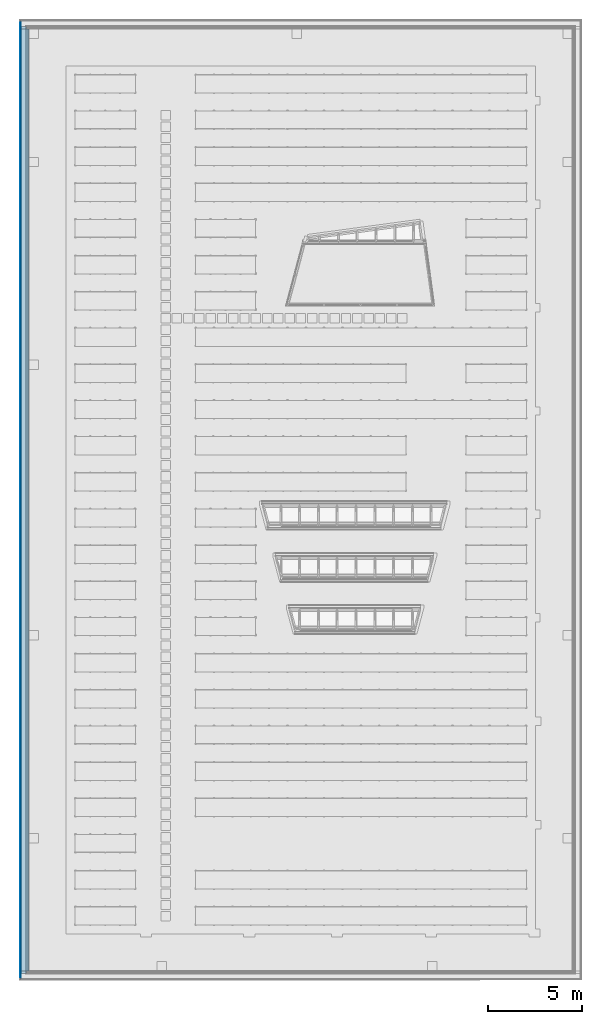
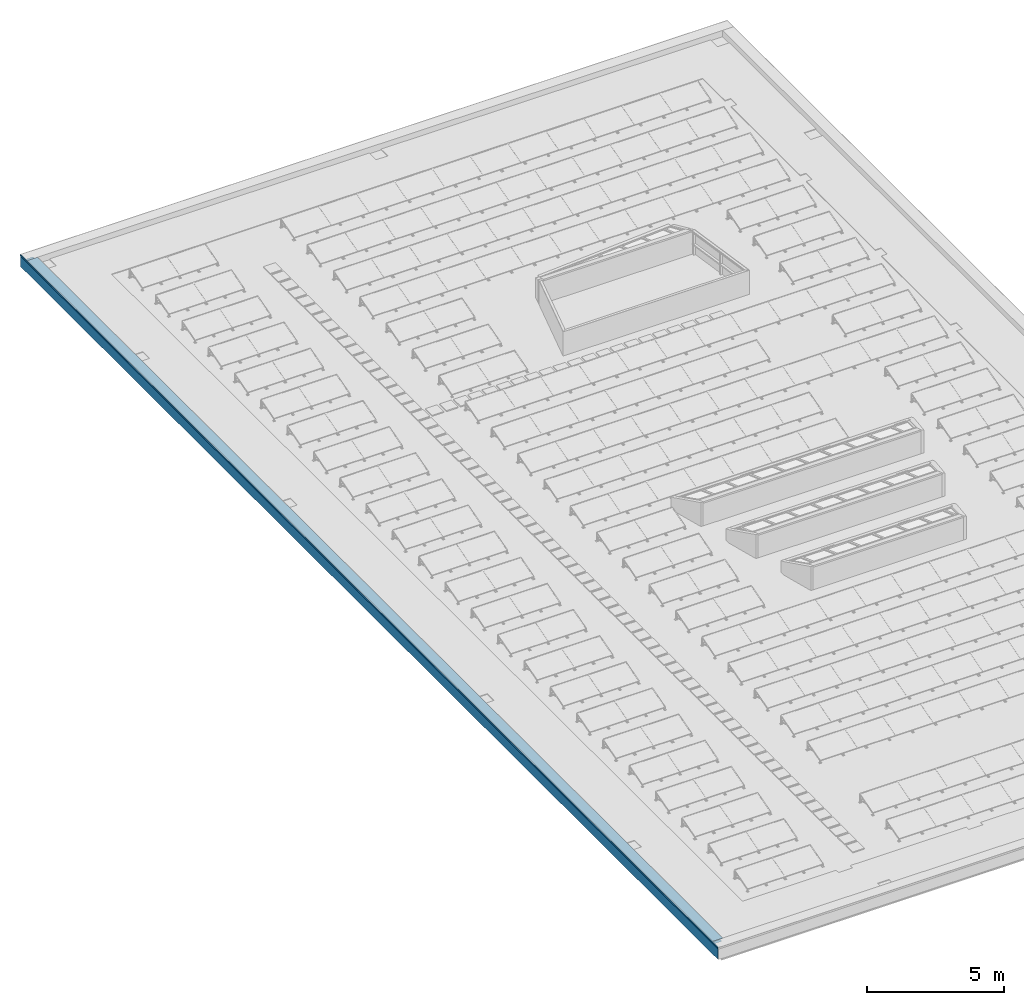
# One storey, part 9 of 20: 3 building element parts, 1 element without a shape of its own.
"""IFC2X3 building model written with IfcOpenShell, lengths in millimetres."""

from ifc_helpers import new_model, entity, si_unit, converted_unit, derived_unit, money_unit, direction, frame, origin_with_axes, place, context, subcontext, project, spatial, faceted_brep, material, type_object, element, aggregate, save


model = new_model("IFC2X3")

# Units and contexts
model_context = context("Model", 3, precision=0.01, world=origin_with_axes(), true_north=direction((0.0, 1.0)))
plan_context = context("Plan", 3, precision=0.01, world=origin_with_axes(), true_north=direction((0.0, 1.0)))
body_context = subcontext(model_context, "Body", "Model", "MODEL_VIEW")
ifc_project = project(units=[si_unit("LENGTHUNIT", "METRE", prefix="MILLI"), si_unit("AREAUNIT", "SQUARE_METRE"), si_unit("VOLUMEUNIT", "CUBIC_METRE"), converted_unit("PLANEANGLEUNIT", "DEGREE", entity("IfcPlaneAngleMeasure", 0.0174532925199), si_unit("PLANEANGLEUNIT", "RADIAN"), dimensions=[0, 0, 0, 0, 0, 0, 0]), si_unit("SOLIDANGLEUNIT", "STERADIAN"), money_unit("EUR"), converted_unit("TIMEUNIT", "Year", entity("IfcTimeMeasure", 31556926.0), si_unit("TIMEUNIT", "SECOND"), dimensions=[0, 0, 1, 0, 0, 0, 0]), si_unit("MASSUNIT", "GRAM", prefix="KILO"), si_unit("THERMODYNAMICTEMPERATUREUNIT", "DEGREE_CELSIUS"), si_unit("LUMINOUSINTENSITYUNIT", "LUMEN"), si_unit("ENERGYUNIT", "JOULE", prefix="MEGA"), derived_unit("THERMALCONDUCTANCEUNIT", [(si_unit("POWERUNIT", "WATT"), 1), (si_unit("LENGTHUNIT", "METRE"), -1), (si_unit("THERMODYNAMICTEMPERATUREUNIT", "KELVIN"), -1)]), derived_unit("SPECIFICHEATCAPACITYUNIT", [(si_unit("ENERGYUNIT", "JOULE"), 1), (si_unit("MASSUNIT", "GRAM", prefix="KILO"), -1), (si_unit("THERMODYNAMICTEMPERATUREUNIT", "KELVIN"), -1)]), derived_unit("MASSDENSITYUNIT", [(si_unit("MASSUNIT", "GRAM", prefix="KILO"), 1), (si_unit("VOLUMEUNIT", "CUBIC_METRE"), -1)])], contexts=[model_context, plan_context])

# Site, building, storey
site_placement = place(None, origin_with_axes())
site = spatial("IfcSite", under=ifc_project, at=site_placement, Name="Site", CompositionType="ELEMENT")
building_placement = place(site_placement, origin_with_axes())
building = spatial("IfcBuilding", under=site, at=building_placement, Name="Naam gebouw", CompositionType="ELEMENT")
storey_placement = place(building_placement, frame((0.0, 0.0, 7920.0), z_axis=(0.0, 0.0, 1.0), x_axis=(1.0, 0.0, 0.0)))
storey = spatial("IfcBuildingStorey", under=building, at=storey_placement, Name="2e verdieping", CompositionType="ELEMENT", Elevation=7920.0)

# Wall, building element parts
wall_type = type_object("IfcWallType", Name="_TenW_27_dakrand_01 473 x 542", PredefinedType="NOTDEFINED")
wall_placement = place(storey_placement, frame((0.0, 50400.0, 0.0), z_axis=(0.0, 0.0, 1.0), x_axis=(0.0, -1.0, 0.0)))
wall = element("IfcWall", 1, at=wall_placement, inside=storey, type_object=wall_type, Name="21_Wand_Wand-x")
ifc_material_1 = material(Name="Hout - Multiplex")
building_element_part_1_placement = place(wall_placement, origin_with_axes())
building_element_part_1 = element("IfcBuildingElementPart", 2, at=building_element_part_1_placement, material=ifc_material_1, Name="Hout - Multiplex", context=body_context, shape_type="Brep", body=[
    faceted_brep([(50262.0239198, -323.318138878, 526.546857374), (50262.0239198, -277.984633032, 526.546857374), (137.976080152, -277.984633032, 526.546860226), (137.976080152, -323.318138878, 526.546857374), (50262.0239198, -323.318138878, 509.508762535), (50262.0239397, 17.908290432, 509.508759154), (50262.0239198, 119.828954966, 509.366891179), (50262.0239198, 119.976079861, 509.366889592), (50262.0239198, 137.976080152, 509.366891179), (50262.0239198, 137.976080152, 527.060682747), (50262.0239198, -277.984633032, 527.060682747), (137.976080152, -277.984633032, 527.060682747), (137.976080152, -323.318138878, 509.508762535), (137.976080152, 137.976080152, 527.060682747), (137.976080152, 137.976080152, 509.366891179), (137.976080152, 119.976079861, 509.366889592), (137.976080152, 119.828954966, 509.366891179), (137.976080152, 17.9109447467, 509.508760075), (50400.0911616, -323.318138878, 509.060688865), (50400.0916934, -323.318138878, 509.483711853), (50382.0917137, -323.318138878, 509.508760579), (17.9082862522, -323.318138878, 509.508760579), (-0.0916934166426, -323.318138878, 509.483711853), (-0.0911615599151, -323.318138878, 509.060688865), (50382.0917137, 17.9082862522, 509.508761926), (50280.0239187, 119.831234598, 509.366888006), (50280.0239187, 119.976079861, 509.366888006), (119.976081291, 119.831234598, 509.366888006), (119.976081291, 119.976079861, 509.366888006), (17.9082862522, 17.9082862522, 509.508761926), (50400.0911616, -0.0911625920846, 509.060678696), (50400.0916934, -0.0916913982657, 509.483713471), (-0.0916934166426, -0.0916913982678, 509.483713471), (-0.0911615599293, -0.0911625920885, 509.060678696), (50280.0239187, 119.831234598, 509.06068655), (119.976081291, 119.831234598, 509.06068655), (50280.0239187, 119.976079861, 509.06068655), (119.976081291, 119.976079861, 509.06068655)], [[[0, 1, 2, 3]], [[0, 4, 5, 6, 7, 8, 9, 10, 1]], [[2, 1, 10, 11]], [[12, 3, 2, 11, 13, 14, 15, 16, 17]], [[18, 19, 20, 4, 0, 3, 12, 21, 22, 23]], [[4, 20, 24, 5]], [[5, 17, 16, 6]], [[6, 25, 26, 7]], [[7, 15, 14, 8]], [[9, 8, 14, 13]], [[10, 9, 13, 11]], [[27, 16, 15, 28]], [[21, 12, 17, 29]], [[19, 18, 30, 31]], [[20, 19, 31, 24]], [[22, 21, 29, 32]], [[23, 22, 32, 33]], [[18, 23, 33, 30]], [[24, 31, 32, 29, 17, 5]], [[34, 25, 6, 16, 27, 35]], [[34, 36, 26, 25]], [[26, 36, 37, 28, 15, 7]], [[35, 27, 28, 37]], [[31, 30, 33, 32]], [[36, 34, 35, 37]]]),
])
ifc_material_2 = material(Name="_TenW_21_Steen - Baksteen")
building_element_part_2_placement = place(wall_placement, origin_with_axes())
building_element_part_2 = element("IfcBuildingElementPart", 3, at=building_element_part_2_placement, material=ifc_material_2, Name="_TenW_21_Steen - Baksteen", context=body_context, shape_type="Brep", body=[
    faceted_brep([(50703.9999976, -324.000000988, -3.91967791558e-06), (50703.9999976, -324.0, 509.060682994), (-303.999997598, -324.0, 509.060682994), (-303.999997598, -324.000000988, -3.91967791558e-06), (50703.9999976, -303.999997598, -3.91967791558e-06), (50703.9999976, -303.999997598, 509.060682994), (50703.9999976, -323.318138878, 509.060684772), (-303.999997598, -323.318138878, 509.060684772), (-303.999997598, -303.999997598, 509.060682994), (-303.999997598, -303.999997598, -3.91967791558e-06)], [[[0, 1, 2, 3]], [[1, 0, 4, 5, 6]], [[2, 1, 6, 7]], [[3, 2, 7, 8, 9]], [[0, 3, 9, 4]], [[5, 4, 9, 8]], [[6, 5, 8, 7]]]),
])
ifc_material_3 = material(Name="Metaal - Aluminium")
building_element_part_3_placement = place(wall_placement, origin_with_axes())
building_element_part_3 = element("IfcBuildingElementPart", 4, at=building_element_part_3_placement, material=ifc_material_3, Name="Metaal - Aluminium", context=body_context, shape_type="Brep", body=[
    faceted_brep([(50723.0479972, -334.046316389, 542.256350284), (50723.0479972, -323.047997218, 542.256350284), (-323.047997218, -323.047997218, 542.256350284), (-323.047997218, -334.046316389, 542.256350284), (50723.0479972, -323.047997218, 540.292434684), (50723.0479972, -334.046316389, 540.292434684), (50723.0479972, -332.046318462, 540.292434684), (-323.047997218, -323.047997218, 540.292434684), (-323.047997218, -334.046316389, 540.292434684), (-323.047997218, -332.046318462, 540.292434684), (-332.046318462, -334.046316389, 540.292434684), (-332.046318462, -334.046316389, 528.546859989), (-277.984623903, -334.046316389, 528.546859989), (-277.984633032, -334.046316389, 527.060685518), (-277.984623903, -334.046316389, 526.54685988), (-323.318138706, -334.046316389, 526.546857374), (-332.046318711, -334.046316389, 526.546858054), (-332.046318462, -334.046316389, 474.418140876), (-326.081756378, -334.046316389, 474.418140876), (-326.081756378, -334.046316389, 472.223595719), (50726.0817564, -334.046316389, 472.223595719), (50726.0817564, -334.046316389, 474.418140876), (50732.0463185, -334.046316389, 474.418140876), (50732.0463187, -334.046316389, 526.546858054), (50723.3181387, -334.046316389, 526.546857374), (50677.9846239, -334.046316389, 526.54685988), (50677.984633, -334.046316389, 527.060685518), (50677.9846239, -334.046316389, 528.546859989), (50732.0463185, -334.046316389, 528.546859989), (50732.0463185, -334.046316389, 540.292434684), (50732.0463185, -332.046318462, 540.292434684), (-332.046318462, -332.046318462, 540.292434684), (-332.046318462, -332.046318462, 528.546859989), (-277.984623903, -332.046318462, 528.546859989), (-277.984633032, -277.984633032, 527.060685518), (-277.984623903, -277.984623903, 528.546859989), (-277.984623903, -323.318138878, 526.54685988), (-277.984623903, -332.046318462, 526.54685988), (-277.984623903, -277.984623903, 526.54685988), (-323.318138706, -332.046318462, 526.546857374), (-332.046318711, -332.046318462, 526.54685832), (-332.046318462, -332.046318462, 474.418140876), (-326.081756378, -332.046318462, 474.418140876), (-326.081756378, -326.081756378, 472.223595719), (-326.081756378, -326.081756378, 474.418140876), (50726.0817564, -326.081756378, 472.223595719), (50726.0817564, -326.081756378, 474.418140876), (50726.0817564, -332.046318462, 474.418140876), (50732.0463185, -332.046318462, 474.418140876), (50732.0463187, -332.046318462, 526.546856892), (50723.3181387, -332.046318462, 526.546857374), (50677.9846239, -332.046318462, 526.54685988), (50677.9846239, -323.318138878, 526.54685988), (50677.9846239, -277.984623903, 526.54685988), (50677.984633, -277.984633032, 527.060685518), (50677.9846239, -277.984623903, 528.546859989), (50677.9846239, -332.046318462, 528.546859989), (50732.0463185, -332.046318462, 528.546859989)], [[[0, 1, 2, 3]], [[4, 1, 0, 5, 6]], [[1, 4, 7, 2]], [[8, 3, 2, 7, 9]], [[5, 0, 3, 8, 10, 11, 12, 13, 14, 15, 16, 17, 18, 19, 20, 21, 22, 23, 24, 25, 26, 27, 28, 29]], [[30, 6, 5, 29]], [[4, 6, 9, 7]], [[8, 9, 31, 10]], [[11, 10, 31, 32]], [[33, 12, 11, 32]], [[34, 13, 12, 33, 35]], [[36, 37, 14, 13, 34, 38]], [[14, 37, 39, 15]], [[15, 39, 40, 16]], [[17, 16, 40, 41]], [[17, 41, 42, 18]], [[43, 19, 18, 42, 44]], [[45, 20, 19, 43]], [[21, 20, 45, 46, 47]], [[47, 48, 22, 21]], [[49, 23, 22, 48]], [[49, 50, 24, 23]], [[50, 51, 25, 24]], [[52, 53, 54, 26, 25, 51]], [[27, 26, 54, 55, 56]], [[28, 27, 56, 57]], [[30, 29, 28, 57]], [[30, 57, 56, 33, 32, 31, 9, 6]], [[35, 33, 56, 55]], [[34, 35, 55, 54]], [[52, 51, 37, 36]], [[54, 53, 38, 34]], [[53, 52, 36, 38]], [[40, 39, 37, 51, 50, 49, 48, 47, 42, 41]], [[47, 46, 44, 42]], [[46, 45, 43, 44]]]),
])
aggregate(wall, [building_element_part_1, building_element_part_2, building_element_part_3])

save(model, "model.ifc")
